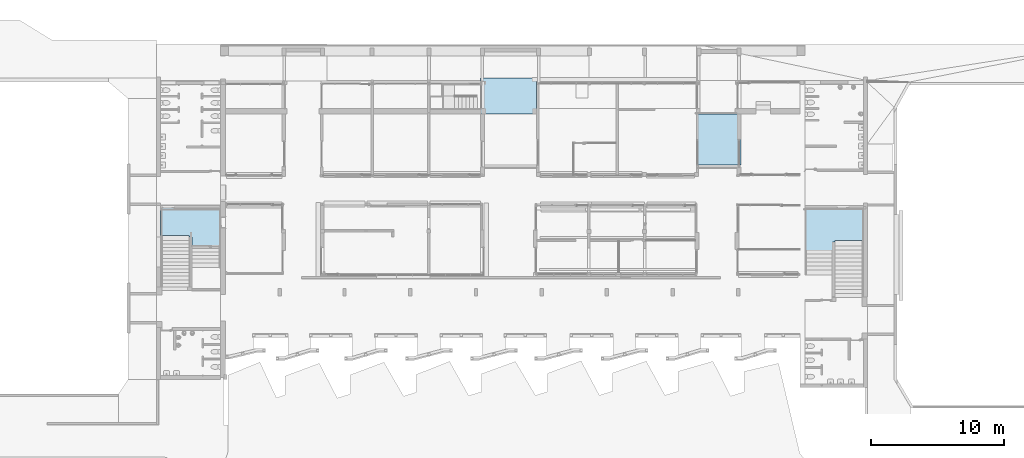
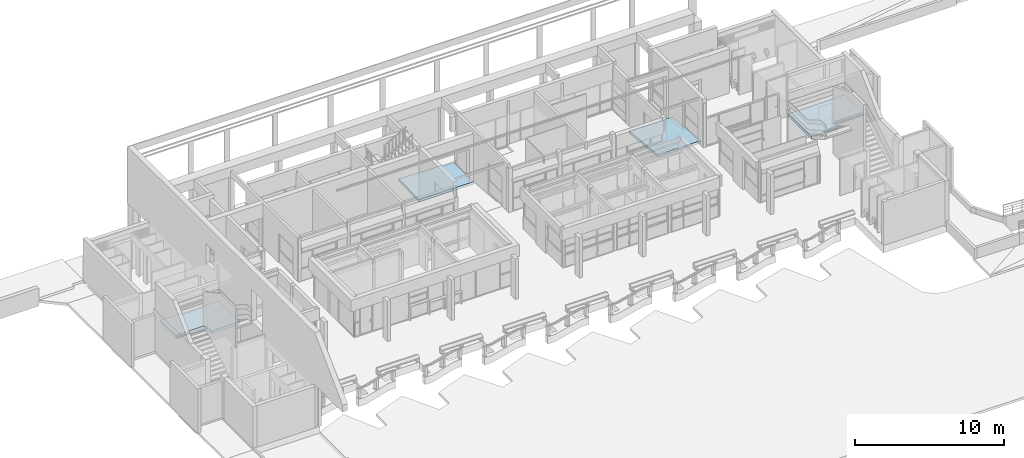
# One storey, part 78 of 117: 4 slabs, 2 elements without a shape of their own.
"""IFC4 building model written with IfcOpenShell, lengths in metres."""

from ifc_helpers import new_model, entity, si_unit, converted_unit, derived_unit, direction, frame, origin, place, context, subcontext, project, spatial, polygons, material, constituent, constituent_set, type_object, element, aggregate, save


model = new_model("IFC4")

# Units and contexts
model_context = context("Model", 3, precision=1e-05, world=origin(), true_north=direction((6.123031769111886e-17, 1.0)))
body_context = subcontext(model_context, "Body", "Model", "MODEL_VIEW")
ifc_project = project(units=[si_unit("LENGTHUNIT", "METRE"), si_unit("AREAUNIT", "SQUARE_METRE"), si_unit("VOLUMEUNIT", "CUBIC_METRE"), converted_unit("PLANEANGLEUNIT", "DEGREE", entity("IfcRatioMeasure", 0.017453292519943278), si_unit("PLANEANGLEUNIT", "RADIAN"), dimensions=[0, 0, 0, 0, 0, 0, 0]), si_unit("MASSUNIT", "GRAM", prefix="KILO"), derived_unit("MASSDENSITYUNIT", [(si_unit("MASSUNIT", "GRAM", prefix="KILO"), 1), (si_unit("LENGTHUNIT", "METRE"), -3)]), derived_unit("MOMENTOFINERTIAUNIT", [(si_unit("LENGTHUNIT", "METRE"), 4)]), si_unit("TIMEUNIT", "SECOND"), si_unit("FREQUENCYUNIT", "HERTZ"), si_unit("THERMODYNAMICTEMPERATUREUNIT", "DEGREE_CELSIUS"), derived_unit("THERMALTRANSMITTANCEUNIT", [(si_unit("MASSUNIT", "GRAM", prefix="KILO"), 1), (si_unit("THERMODYNAMICTEMPERATUREUNIT", "KELVIN"), -1), (si_unit("TIMEUNIT", "SECOND"), -3)]), derived_unit("VOLUMETRICFLOWRATEUNIT", [(si_unit("LENGTHUNIT", "METRE"), 3), (si_unit("TIMEUNIT", "SECOND"), -1)]), derived_unit("MASSFLOWRATEUNIT", [(si_unit("MASSUNIT", "GRAM", prefix="KILO"), 1), (si_unit("TIMEUNIT", "SECOND"), -1)]), derived_unit("ROTATIONALFREQUENCYUNIT", [(si_unit("TIMEUNIT", "SECOND"), -1)]), si_unit("ELECTRICCURRENTUNIT", "AMPERE"), si_unit("ELECTRICVOLTAGEUNIT", "VOLT"), si_unit("POWERUNIT", "WATT"), si_unit("FORCEUNIT", "NEWTON", prefix="KILO"), si_unit("ILLUMINANCEUNIT", "LUX"), si_unit("LUMINOUSFLUXUNIT", "LUMEN"), si_unit("LUMINOUSINTENSITYUNIT", "CANDELA"), derived_unit("USERDEFINED", [(si_unit("MASSUNIT", "GRAM", prefix="KILO"), -1), (si_unit("LENGTHUNIT", "METRE"), -2), (si_unit("TIMEUNIT", "SECOND"), 3), (si_unit("LUMINOUSFLUXUNIT", "LUMEN"), 1)]), derived_unit("SOUNDPOWERUNIT", [(si_unit("MASSUNIT", "GRAM", prefix="KILO"), 1), (si_unit("LENGTHUNIT", "METRE"), 2), (si_unit("TIMEUNIT", "SECOND"), -3)]), derived_unit("SOUNDPRESSUREUNIT", [(si_unit("MASSUNIT", "GRAM", prefix="KILO"), 1), (si_unit("LENGTHUNIT", "METRE"), -1), (si_unit("TIMEUNIT", "SECOND"), -2)]), derived_unit("LINEARVELOCITYUNIT", [(si_unit("LENGTHUNIT", "METRE"), 1), (si_unit("TIMEUNIT", "SECOND"), -1)]), si_unit("PRESSUREUNIT", "PASCAL"), derived_unit("USERDEFINED", [(si_unit("LENGTHUNIT", "METRE"), -2), (si_unit("MASSUNIT", "GRAM", prefix="KILO"), 1), (si_unit("TIMEUNIT", "SECOND"), -2)]), derived_unit("LINEARFORCEUNIT", [(si_unit("MASSUNIT", "GRAM", prefix="KILO"), 1), (si_unit("LENGTHUNIT", "METRE"), 1), (si_unit("TIMEUNIT", "SECOND"), -2), (si_unit("LENGTHUNIT", "METRE"), -1)]), derived_unit("PLANARFORCEUNIT", [(si_unit("MASSUNIT", "GRAM", prefix="KILO"), 1), (si_unit("LENGTHUNIT", "METRE"), 1), (si_unit("TIMEUNIT", "SECOND"), -2), (si_unit("LENGTHUNIT", "METRE"), -2)])], contexts=[model_context])

# Site, building, storey
site_placement = place(None, origin())
site = spatial("IfcSite", under=ifc_project, at=site_placement, Name="Superficie", CompositionType="ELEMENT")
building_placement = place(site_placement, origin())
building = spatial("IfcBuilding", under=site, at=building_placement, CompositionType="ELEMENT")
storey_placement = place(building_placement, origin())
storey = spatial("IfcBuildingStorey", under=building, at=storey_placement, Name="Nivel 0", CompositionType="ELEMENT", Elevation=0.0)

# Stair, slab
stair_type_1 = type_object("IfcStairType", Name="Escalera prefabricada:Escalera prefabricada", PredefinedType="HALF_TURN_STAIR")
stair_1_placement = place(storey_placement, origin())
stair_1 = element("IfcStair", 1, at=stair_1_placement, inside=storey, type_object=stair_type_1, Name="Escalera prefabricada:Escalera", ObjectType="Escalera prefabricada:Escalera prefabricada", PredefinedType="HALF_TURN_STAIR")
ifc_material_1 = material(Name="Cerámica blanca", Category="Cerámica")
ifc_constituent_1 = constituent(ifc_material_1, Name="Cerámica blanca", Category="Cerámica")
ifc_material_2 = material(Name="Hormigón", Category="Hormigón")
ifc_constituent_2 = constituent(ifc_material_2, Name="Hormigón", Category="Hormigón")
ifc_constituent_set_1 = constituent_set(constituents=[ifc_constituent_1, ifc_constituent_2], Name="MaterialConstituentSet")
slab_type_1 = type_object("IfcSlabType", Name="Descansillo monolítico:Grosor 200 mm", PredefinedType="LANDING")
slab_1_placement = place(stair_1_placement, frame((20.986799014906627, 0.09082919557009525, 0.0)))
slab_1 = element("IfcSlab", 2, at=slab_1_placement, type_object=slab_type_1, material=ifc_constituent_set_1, Name="Escalera prefabricada:Escalera:227558 Landing 1", ObjectType="Descansillo monolítico:Grosor 200 mm", PredefinedType="LANDING", context=body_context, shape_type="Tessellation", body=[
    polygons([(2.2400000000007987, 0.6450000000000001, 2.52), (2.2400000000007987, 0.7550000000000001, 2.52), (4.3900000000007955, 0.7550000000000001, 2.52), (4.3900000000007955, 3.1350000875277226, 2.52), (0.0, 3.1350000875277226, 2.52), (0.0, 0.04499999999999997, 2.52), (0.0, 0.0, 2.52), (2.0450000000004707, 0.0, 2.52), (2.0450000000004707, 0.04499999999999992, 2.52), (2.0450000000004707, 0.6450000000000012, 2.52), (2.2400000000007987, 0.6450000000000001, 2.48), (2.0450000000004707, 0.6450000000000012, 2.48), (2.0450000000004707, 0.04499999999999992, 2.48), (2.0450000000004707, 0.0, 2.48), (0.0, 0.0, 2.48), (0.0, 0.04499999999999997, 2.48), (0.0, 3.1350000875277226, 2.48), (4.3900000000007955, 3.1350000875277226, 2.48), (4.3900000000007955, 0.7550000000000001, 2.48), (2.2400000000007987, 0.7550000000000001, 2.48)], [[[1, 2, 3, 4, 5, 6, 7, 8, 9, 10]], [[11, 12, 13, 14, 15, 16, 17, 18, 19, 20]], [[2, 1, 11, 20]], [[3, 2, 20, 19]], [[4, 3, 19, 18]], [[5, 4, 18, 17]], [[6, 5, 17, 16]], [[7, 6, 16, 15]], [[8, 7, 15, 14]], [[9, 8, 14, 13]], [[10, 9, 13, 12]], [[1, 10, 12, 11]]], closed=True),
    polygons([(4.3900000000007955, 3.1350000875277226, 2.48), (0.0, 3.1350000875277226, 2.48), (0.0, 0.04499999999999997, 2.48), (0.0, 0.0, 2.48), (2.0450000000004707, 0.0, 2.48), (2.0450000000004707, 0.04499999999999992, 2.48), (2.0450000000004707, 0.6450000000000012, 2.48), (2.2384125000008, 0.6450000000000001, 2.48), (2.2384125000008, 0.7550000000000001, 2.48), (4.3900000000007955, 0.7550000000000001, 2.48), (4.3900000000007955, 3.1350000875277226, 2.2800000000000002), (4.3900000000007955, 0.7550000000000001, 2.3699999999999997), (4.3900000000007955, 0.6550000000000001, 2.3699999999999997), (4.3900000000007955, 0.6550000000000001, 2.2800000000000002), (0.0, 3.1350000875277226, 2.2800000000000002), (0.0, 0.04499999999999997, 2.2800000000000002), (0.0, 0.0, 2.2800000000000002), (2.0450000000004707, 0.0, 2.2800000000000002), (2.0450000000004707, 0.04499999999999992, 2.2800000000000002), (2.0450000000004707, 0.6450000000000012, 2.2800000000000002), (2.2384125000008, 0.6450000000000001, 2.2800000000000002), (2.2384125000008, 0.655, 2.2800000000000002), (2.2384125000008, 0.7550000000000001, 2.3699999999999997), (2.2384125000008, 0.6550000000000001, 2.3699999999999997)], [[[1, 2, 3, 4, 5, 6, 7, 8, 9, 10]], [[11, 1, 10, 12, 13, 14]], [[2, 1, 11, 15]], [[3, 2, 15, 16]], [[4, 3, 16, 17]], [[5, 4, 17, 18]], [[6, 5, 18, 19]], [[7, 6, 19, 20]], [[7, 20, 21, 8]], [[15, 11, 14, 22, 21, 20, 19, 18, 17, 16]], [[23, 24, 13, 12]], [[9, 23, 12, 10]], [[23, 9, 8, 21, 22, 24]], [[13, 24, 22, 14]]], closed=True),
])
aggregate(stair_1, [slab_1])

# Slab
ifc_material_3 = material(Name="Suelos por defecto", Category="Genérico")
slab_type_2 = type_object("IfcSlabType", Name="Suelo:Por defecto - 20 cm 2", PredefinedType="FLOOR", material=ifc_material_3)
slab_2_placement = place(storey_placement, origin())
element("IfcSlab", 3, at=slab_2_placement, inside=storey, type_object=slab_type_2, material=ifc_material_3, Name="Suelo:Por defecto - 20 cm 2", ObjectType="Suelo:Por defecto - 20 cm 2", PredefinedType="FLOOR", context=body_context, shape_type="Tessellation", body=[
    polygons([(12.79179901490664, 10.370829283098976, -0.5711999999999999), (12.79179901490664, 10.370829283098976, -0.3711999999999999), (16.146799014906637, 10.370829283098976, -0.401), (16.146799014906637, 10.370829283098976, -0.601), (16.146799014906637, 6.516739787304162, 0.0), (16.146799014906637, 6.516739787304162, -0.2), (12.79179901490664, 6.516739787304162, 0.0), (12.79179901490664, 6.516739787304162, -0.19999999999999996), (16.146799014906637, 8.817365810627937, -0.2393693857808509), (12.79179901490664, 8.44378453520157, -0.18559999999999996), (14.344365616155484, 10.370829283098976, -0.3849903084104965), (16.146799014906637, 7.667052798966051, -0.11968469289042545), (14.344365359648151, 6.516739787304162, 0.0), (14.575473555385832, 8.242209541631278, -0.17327856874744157), (12.79179901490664, 9.220516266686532, -0.26040958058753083), (14.65533499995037, 9.315160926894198, -0.28154368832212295), (16.146799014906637, 8.817365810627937, -0.43936938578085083), (12.79179901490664, 8.44378453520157, -0.38559999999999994), (14.344365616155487, 10.370829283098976, -0.5849903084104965), (16.146799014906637, 7.667052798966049, -0.3196846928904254), (14.344365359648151, 6.516739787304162, -0.19999999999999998), (14.575473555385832, 8.242209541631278, -0.3732785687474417), (12.79179901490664, 9.220516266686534, -0.4604095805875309), (14.65533499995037, 9.315160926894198, -0.48154368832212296)], [[[3, 4, 19, 1, 2, 11]], [[3, 9, 12, 5, 6, 20, 17, 4]], [[5, 13, 7, 8, 21, 6]], [[2, 1, 23, 18, 8, 7, 10, 15]], [[16, 15, 10]], [[13, 5, 12]], [[11, 2, 15]], [[16, 10, 14]], [[13, 12, 14]], [[14, 7, 13]], [[9, 14, 12]], [[11, 16, 3]], [[14, 10, 7]], [[16, 14, 9]], [[3, 16, 9]], [[15, 16, 11]], [[18, 23, 24]], [[20, 6, 21]], [[23, 1, 19]], [[22, 18, 24]], [[22, 20, 21]], [[21, 8, 22]], [[20, 22, 17]], [[4, 24, 19]], [[8, 18, 22]], [[17, 22, 24]], [[17, 24, 4]], [[19, 24, 23]]], closed=True),
])

# Stair, slab
stair_type_2 = type_object("IfcStairType", Name="Escalera prefabricada:Escalera prefabricada", PredefinedType="HALF_TURN_STAIR")
stair_2_placement = place(storey_placement, origin())
stair_2 = element("IfcStair", 4, at=stair_2_placement, inside=storey, type_object=stair_type_2, Name="Escalera prefabricada:Escalera", ObjectType="Escalera prefabricada:Escalera prefabricada", PredefinedType="HALF_TURN_STAIR")
ifc_constituent_3 = constituent(ifc_material_1, Name="Cerámica blanca", Category="Cerámica")
ifc_constituent_4 = constituent(ifc_material_2, Name="Hormigón", Category="Hormigón")
ifc_constituent_set_2 = constituent_set(constituents=[ifc_constituent_3, ifc_constituent_4], Name="MaterialConstituentSet")
slab_type_3 = type_object("IfcSlabType", Name="Descansillo monolítico:Grosor 200 mm", PredefinedType="LANDING")
slab_3_placement = place(stair_2_placement, frame((-27.54320098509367, 0.47082928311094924, 0.0)))
slab_3 = element("IfcSlab", 5, at=slab_3_placement, type_object=slab_type_3, material=ifc_constituent_set_2, Name="Escalera prefabricada:Escalera:336865 Landing 1", ObjectType="Descansillo monolítico:Grosor 200 mm", PredefinedType="LANDING", context=body_context, shape_type="Tessellation", body=[
    polygons([(0.0, 0.7649999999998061, 2.571428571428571), (2.1499999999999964, 0.7649999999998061, 2.571428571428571), (2.1499999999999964, 0.6549999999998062, 2.571428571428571), (2.3500000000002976, 0.6549999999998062, 2.571428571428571), (2.3500000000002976, 0.04500000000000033, 2.571428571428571), (2.3500000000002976, 2.707167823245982e-16, 2.571428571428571), (4.500000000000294, 2.707167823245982e-16, 2.571428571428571), (4.500000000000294, 0.04500000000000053, 2.571428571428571), (4.500000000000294, 2.8049999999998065, 2.571428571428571), (0.0, 2.8049999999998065, 2.571428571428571), (0.0, 0.7649999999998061, 2.531428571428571), (0.0, 2.8049999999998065, 2.531428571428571), (4.500000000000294, 2.8049999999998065, 2.531428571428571), (4.500000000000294, 0.04500000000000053, 2.531428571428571), (4.500000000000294, 2.707167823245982e-16, 2.531428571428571), (2.3500000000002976, 2.707167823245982e-16, 2.531428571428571), (2.3500000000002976, 0.04500000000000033, 2.531428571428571), (2.3500000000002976, 0.6549999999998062, 2.531428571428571), (2.1499999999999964, 0.6549999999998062, 2.531428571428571), (2.1499999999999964, 0.7649999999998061, 2.531428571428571)], [[[1, 2, 3, 4, 5, 6, 7, 8, 9, 10]], [[11, 12, 13, 14, 15, 16, 17, 18, 19, 20]], [[2, 1, 11, 20]], [[3, 2, 20, 19]], [[4, 3, 19, 18]], [[5, 4, 18, 17]], [[6, 5, 17, 16]], [[7, 6, 16, 15]], [[8, 7, 15, 14]], [[9, 8, 14, 13]], [[10, 9, 13, 12]], [[1, 10, 12, 11]]], closed=True),
    polygons([(2.3500000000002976, 0.6549999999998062, 2.531428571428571), (2.3500000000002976, 0.04500000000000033, 2.531428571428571), (2.3500000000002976, 2.707167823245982e-16, 2.531428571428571), (4.500000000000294, 2.707167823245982e-16, 2.531428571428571), (4.500000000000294, 0.04500000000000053, 2.531428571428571), (4.500000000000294, 2.8049999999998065, 2.531428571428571), (0.0, 2.8049999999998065, 2.531428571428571), (0.0, 0.7649999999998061, 2.531428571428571), (2.151587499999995, 0.7649999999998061, 2.531428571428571), (2.151587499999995, 0.6549999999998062, 2.531428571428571), (2.3500000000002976, 0.6549999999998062, 2.331428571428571), (2.151587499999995, 0.6549999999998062, 2.331428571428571), (2.3500000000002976, 0.04500000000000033, 2.331428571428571), (2.3500000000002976, 2.707167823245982e-16, 2.331428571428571), (4.500000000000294, 2.707167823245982e-16, 2.331428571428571), (4.500000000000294, 0.0450000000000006, 2.331428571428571), (4.500000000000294, 2.8049999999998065, 2.331428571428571), (0.0, 2.8049999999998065, 2.331428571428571), (0.0, 0.6649999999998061, 2.331428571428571), (0.0, 0.6649999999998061, 2.4214285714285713), (0.0, 0.7649999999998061, 2.4214285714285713), (2.151587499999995, 0.6649999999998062, 2.331428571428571), (2.151587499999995, 0.6649999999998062, 2.4214285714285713), (2.151587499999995, 0.7649999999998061, 2.4214285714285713)], [[[1, 2, 3, 4, 5, 6, 7, 8, 9, 10]], [[11, 1, 10, 12]], [[2, 1, 11, 13]], [[3, 2, 13, 14]], [[4, 3, 14, 15]], [[5, 4, 15, 16]], [[6, 5, 16, 17]], [[7, 6, 17, 18]], [[7, 18, 19, 20, 21, 8]], [[13, 11, 12, 22, 19, 18, 17, 16, 15, 14]], [[23, 24, 21, 20]], [[9, 24, 23, 22, 12, 10]], [[24, 9, 8, 21]], [[23, 20, 19, 22]]], closed=True),
])
aggregate(stair_2, [slab_3])

# Slab
slab_type_4 = type_object("IfcSlabType", Name="Suelo:Por defecto - 20 cm 2", PredefinedType="FLOOR", material=ifc_material_3)
slab_4_placement = place(storey_placement, origin())
element("IfcSlab", 6, at=slab_4_placement, inside=storey, type_object=slab_type_4, material=ifc_material_3, Name="Suelo:Por defecto - 20 cm 2", ObjectType="Suelo:Por defecto - 20 cm 2", PredefinedType="FLOOR", context=body_context, shape_type="Tessellation", body=[
    polygons([(0.7617990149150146, 13.091739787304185, -0.52), (0.7617990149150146, 13.091739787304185, -0.32), (0.7617990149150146, 10.370829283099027, -0.32), (0.7617990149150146, 10.370829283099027, -0.52), (-3.4532009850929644, 10.370829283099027, -0.32), (-3.4532009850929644, 10.370829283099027, -0.52), (-3.4532009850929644, 13.091739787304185, -0.25999999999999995), (-3.4532009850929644, 13.091739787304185, -0.46), (-0.5387343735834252, 10.370829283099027, -0.32), (-1.3457009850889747, 13.091739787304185, -0.29), (0.7617990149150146, 12.06406834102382, -0.32), (-1.9959676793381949, 10.370829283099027, -0.32), (-3.4532009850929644, 12.064068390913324, -0.28266163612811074), (-1.2673507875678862, 11.60109334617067, -0.30693973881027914), (-1.9959676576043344, 13.091739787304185, -0.2807435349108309), (-2.397076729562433, 11.597997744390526, -0.29971961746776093), (-0.538734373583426, 10.370829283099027, -0.5199999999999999), (-1.3457009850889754, 13.091739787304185, -0.49), (0.7617990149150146, 12.06406834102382, -0.5199999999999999), (-1.9959676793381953, 10.370829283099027, -0.5199999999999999), (-3.453200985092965, 12.064068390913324, -0.4826616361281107), (-1.2673507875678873, 11.60109334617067, -0.5069397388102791), (-1.9959676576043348, 13.091739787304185, -0.4807435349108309), (-2.397076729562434, 11.597997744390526, -0.49971961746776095)], [[[2, 11, 3, 4, 19, 1]], [[3, 9, 12, 5, 6, 20, 17, 4]], [[5, 13, 7, 8, 21, 6]], [[2, 1, 18, 23, 8, 7, 15, 10]], [[15, 16, 14]], [[10, 11, 2]], [[9, 3, 11]], [[15, 13, 16]], [[12, 14, 16]], [[14, 11, 10]], [[9, 14, 12]], [[11, 14, 9]], [[10, 15, 14]], [[13, 15, 7]], [[5, 12, 16]], [[5, 16, 13]], [[22, 24, 23]], [[1, 19, 18]], [[19, 4, 17]], [[24, 21, 23]], [[24, 22, 20]], [[18, 19, 22]], [[20, 22, 17]], [[17, 22, 19]], [[22, 23, 18]], [[8, 23, 21]], [[24, 20, 6]], [[21, 24, 6]]], closed=True),
])

save(model, "model.ifc")
